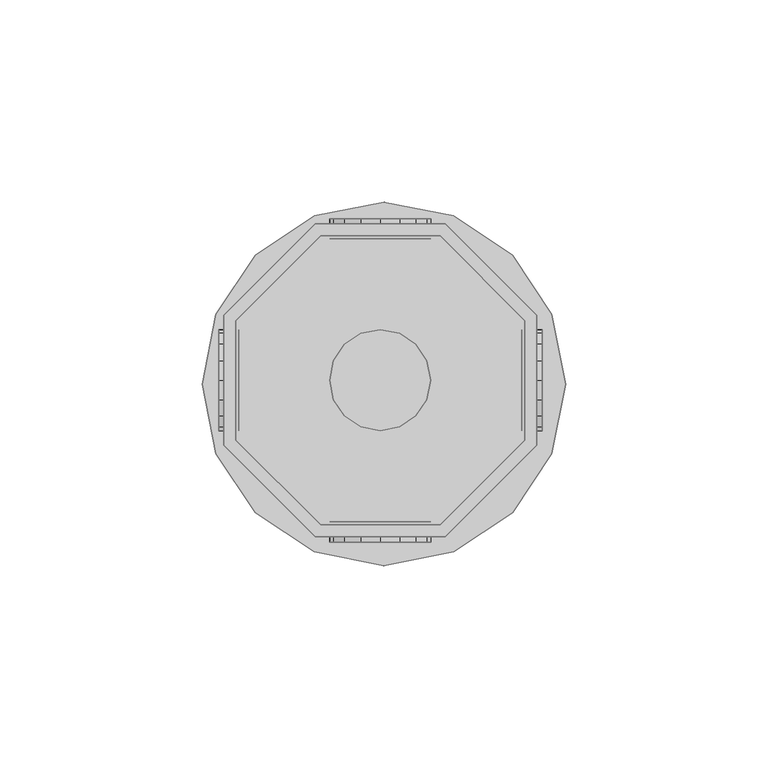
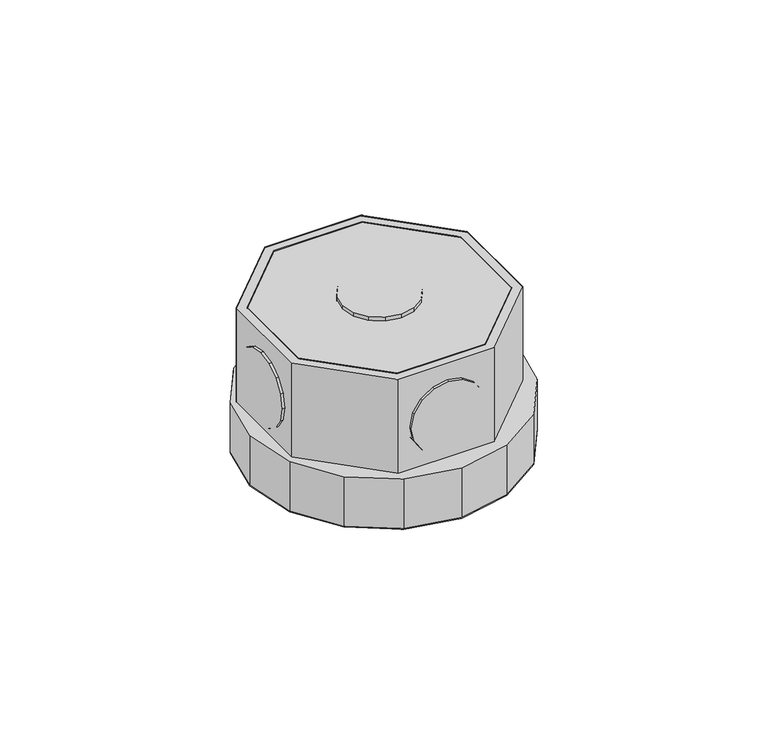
"""IFC4 building model written with IfcOpenShell, lengths in millimetres: light fixture geometry,  213252 :  213252."""

from ifc_helpers import new_model, si_unit, origin, place, context, project, spatial, triangles, source, transform, mapped, element, save


def light_fixture_a044ba7b(model_context):
    return source(origin(), model_context, "Body", "Tessellation", [
        triangles([(17509.9998138, 16550.5002411, 2924.5999741), (17480.4004578, 16550.5002411, 2975.400071), (17480.4004578, 16550.5002411, 2924.5999741), (17509.9998138, 16550.5002411, 2975.400071), (17511.1997406, 16476.0001373, 2924.5999741), (17479.1005371, 16476.0001373, 2975.400071), (17479.1005371, 16476.0001373, 2924.5999741), (17511.1997406, 16476.0001373, 2975.400071), (17459.4005768, 16529.5003601, 2975.400071), (17459.4005768, 16529.5003601, 2924.5999741), (17533.8995178, 16498.6999146, 2924.5999741), (17533.8995178, 16498.6999146, 2975.400071), (17459.4005768, 16499.8998413, 2975.400071), (17459.4005768, 16499.8998413, 2924.5999741), (17533.8995178, 16530.8002808, 2924.5999741), (17533.8995178, 16530.8002808, 2975.400071), (17480.4004578, 16478.9999542, 2975.400071), (17480.4004578, 16478.9999542, 2924.5999741), (17511.1997406, 16553.500058, 2924.5999741), (17511.1997406, 16553.500058, 2975.400071), (17509.9998138, 16478.9999542, 2924.5999741), (17509.9998138, 16478.9999542, 2975.400071), (17479.1005371, 16553.500058, 2975.400071), (17479.1005371, 16553.500058, 2924.5999741), (17530.8997009, 16499.8998413, 2924.5999741), (17530.8997009, 16499.8998413, 2975.400071), (17456.3995972, 16530.8002808, 2975.400071), (17456.3995972, 16530.8002808, 2924.5999741), (17456.3995972, 16498.6999146, 2975.400071), (17530.8997009, 16529.5003601, 2975.400071), (17530.8997009, 16529.5003601, 2924.5999741), (17456.3995972, 16498.6999146, 2924.5999741), (17459.4005768, 16499.8998413, 2972.3999634), (17480.4004578, 16478.9999542, 2972.3999634), (17509.9998138, 16478.9999542, 2972.3999634), (17530.8997009, 16499.8998413, 2972.3999634), (17530.8997009, 16529.5003601, 2972.3999634), (17509.9998138, 16550.5002411, 2972.3999634), (17480.4004578, 16550.5002411, 2972.3999634), (17459.4005768, 16529.5003601, 2972.3999634), (17456.3995972, 16530.8002808, 2942.4000504), (17479.1005371, 16553.500058, 2942.4000504), (17511.1997406, 16553.500058, 2942.4000504), (17533.8995178, 16530.8002808, 2942.4000504), (17533.8995178, 16498.6999146, 2942.4000504), (17511.1997406, 16476.0001373, 2942.4000504), (17479.1005371, 16476.0001373, 2942.4000504), (17456.3995972, 16498.6999146, 2942.4000504), (17478.8005554, 16472.3003632, 2942.4000504), (17454.4997131, 16496.6000427, 2942.4000504), (17464.2002838, 16481.9997711, 2942.4000504), (17451.0999207, 16513.8001556, 2942.4000504), (17454.4997131, 16531.1002625, 2942.4000504), (17464.2002838, 16545.7005341, 2942.4000504), (17478.8005554, 16555.399942, 2942.4000504), (17496.0994995, 16558.7997345, 2942.4000504), (17513.2996124, 16555.399942, 2942.4000504), (17537.6004547, 16531.1002625, 2942.4000504), (17527.899884, 16545.7005341, 2942.4000504), (17496.0994995, 16468.8005768, 2942.4000504), (17513.2996124, 16472.3003632, 2942.4000504), (17527.899884, 16481.9997711, 2942.4000504), (17537.6004547, 16496.6000427, 2942.4000504), (17541.1002411, 16513.8001556, 2942.4000504), (17454.4997131, 16496.6000427, 2924.5999741), (17478.8005554, 16472.3003632, 2924.5999741), (17464.2002838, 16481.9997711, 2924.5999741), (17451.0999207, 16513.8001556, 2924.5999741), (17454.4997131, 16531.1002625, 2924.5999741), (17464.2002838, 16545.7005341, 2924.5999741), (17478.8005554, 16555.399942, 2924.5999741), (17496.0994995, 16558.7997345, 2924.5999741), (17513.2996124, 16555.399942, 2924.5999741), (17537.6004547, 16531.1002625, 2924.5999741), (17527.899884, 16545.7005341, 2924.5999741), (17496.0994995, 16468.8005768, 2924.5999741), (17513.2996124, 16472.3003632, 2924.5999741), (17527.899884, 16481.9997711, 2924.5999741), (17537.6004547, 16496.6000427, 2924.5999741), (17541.1002411, 16513.8001556, 2924.5999741), (17483.6002625, 16554.6999847, 2952.6000092), (17490.3998474, 16554.6999847, 2945.9001274), (17486.3000977, 16554.6999847, 2948.5999626), (17482.7003174, 16554.6999847, 2957.4000069), (17495.1995544, 16554.6999847, 2944.8998978), (17483.6002625, 16554.6999847, 2962.2000046), (17500.0004242, 16554.6999847, 2945.9001274), (17486.3000977, 16554.6999847, 2966.2000511), (17504.0001801, 16554.6999847, 2948.5999626), (17490.3998474, 16554.6999847, 2968.8998863), (17506.7000153, 16554.6999847, 2952.6000092), (17495.1995544, 16554.6999847, 2969.900116), (17507.6999542, 16554.6999847, 2957.4000069), (17500.0004242, 16554.6999847, 2968.8998863), (17506.7000153, 16554.6999847, 2962.2000046), (17504.0001801, 16554.6999847, 2966.2000511), (17490.3998474, 16549.7002899, 2945.9001274), (17483.6002625, 16549.7002899, 2952.6000092), (17486.3000977, 16549.7002899, 2948.5999626), (17495.1995544, 16549.7002899, 2944.8998978), (17482.7003174, 16549.7002899, 2957.4000069), (17500.0004242, 16549.7002899, 2945.9001274), (17483.6002625, 16549.7002899, 2962.2000046), (17504.0001801, 16549.7002899, 2948.5999626), (17486.3000977, 16549.7002899, 2966.2000511), (17490.3998474, 16549.7002899, 2968.8998863), (17506.7000153, 16549.7002899, 2952.6000092), (17495.1995544, 16549.7002899, 2969.900116), (17507.6999542, 16549.7002899, 2957.4000069), (17500.0004242, 16549.7002899, 2968.8998863), (17506.7000153, 16549.7002899, 2962.2000046), (17504.0001801, 16549.7002899, 2966.2000511), (17483.6002625, 16479.6999115, 2952.6000092), (17490.3998474, 16479.6999115, 2945.9001274), (17486.3000977, 16479.6999115, 2948.5999626), (17482.7003174, 16479.6999115, 2957.4000069), (17495.1995544, 16479.6999115, 2944.8998978), (17483.6002625, 16479.6999115, 2962.2000046), (17500.0004242, 16479.6999115, 2945.9001274), (17486.3000977, 16479.6999115, 2966.2000511), (17504.0001801, 16479.6999115, 2948.5999626), (17490.3998474, 16479.6999115, 2968.8998863), (17506.7000153, 16479.6999115, 2952.6000092), (17495.1995544, 16479.6999115, 2969.900116), (17507.6999542, 16479.6999115, 2957.4000069), (17500.0004242, 16479.6999115, 2968.8998863), (17506.7000153, 16479.6999115, 2962.2000046), (17504.0001801, 16479.6999115, 2966.2000511), (17490.3998474, 16474.7002167, 2945.9001274), (17483.6002625, 16474.7002167, 2952.6000092), (17486.3000977, 16474.7002167, 2948.5999626), (17495.1995544, 16474.7002167, 2944.8998978), (17482.7003174, 16474.7002167, 2957.4000069), (17500.0004242, 16474.7002167, 2945.9001274), (17483.6002625, 16474.7002167, 2962.2000046), (17504.0001801, 16474.7002167, 2948.5999626), (17486.3000977, 16474.7002167, 2966.2000511), (17490.3998474, 16474.7002167, 2968.8998863), (17506.7000153, 16474.7002167, 2952.6000092), (17495.1995544, 16474.7002167, 2969.900116), (17507.6999542, 16474.7002167, 2957.4000069), (17500.0004242, 16474.7002167, 2968.8998863), (17506.7000153, 16474.7002167, 2962.2000046), (17504.0001801, 16474.7002167, 2966.2000511), (17460.200528, 16509.9003937, 2945.9001274), (17460.200528, 16503.1996399, 2952.6000092), (17460.200528, 16505.8994751, 2948.5999626), (17460.200528, 16514.7001007, 2944.8998978), (17460.200528, 16502.1997009, 2957.4000069), (17460.200528, 16519.4998077, 2945.9001274), (17460.200528, 16503.1996399, 2962.2000046), (17460.200528, 16523.5995575, 2948.5999626), (17460.200528, 16505.8994751, 2966.2000511), (17460.200528, 16509.9003937, 2968.8998863), (17460.200528, 16526.3005554, 2952.6000092), (17460.200528, 16514.7001007, 2969.900116), (17460.200528, 16527.2005005, 2957.4000069), (17460.200528, 16519.4998077, 2968.8998863), (17460.200528, 16526.3005554, 2962.2000046), (17460.200528, 16523.5995575, 2966.2000511), (17455.1996704, 16503.1996399, 2952.6000092), (17455.1996704, 16509.9003937, 2945.9001274), (17455.1996704, 16505.8994751, 2948.5999626), (17455.1996704, 16502.1997009, 2957.4000069), (17455.1996704, 16514.7001007, 2944.8998978), (17455.1996704, 16503.1996399, 2962.2000046), (17455.1996704, 16519.4998077, 2945.9001274), (17455.1996704, 16505.8994751, 2966.2000511), (17455.1996704, 16523.5995575, 2948.5999626), (17455.1996704, 16509.9003937, 2968.8998863), (17455.1996704, 16526.3005554, 2952.6000092), (17455.1996704, 16514.7001007, 2969.900116), (17455.1996704, 16527.2005005, 2957.4000069), (17455.1996704, 16519.4998077, 2968.8998863), (17455.1996704, 16526.3005554, 2962.2000046), (17455.1996704, 16523.5995575, 2966.2000511), (17535.1994385, 16509.9003937, 2945.9001274), (17535.1994385, 16503.1996399, 2952.6000092), (17535.1994385, 16505.8994751, 2948.5999626), (17535.1994385, 16514.7001007, 2944.8998978), (17535.1994385, 16502.1997009, 2957.4000069), (17535.1994385, 16519.4998077, 2945.9001274), (17535.1994385, 16503.1996399, 2962.2000046), (17535.1994385, 16523.5995575, 2948.5999626), (17535.1994385, 16505.8994751, 2966.2000511), (17535.1994385, 16509.9003937, 2968.8998863), (17535.1994385, 16526.3005554, 2952.6000092), (17535.1994385, 16514.7001007, 2969.900116), (17535.1994385, 16527.2005005, 2957.4000069), (17535.1994385, 16519.4998077, 2968.8998863), (17535.1994385, 16526.3005554, 2962.2000046), (17535.1994385, 16523.5995575, 2966.2000511), (17530.1997437, 16503.1996399, 2952.6000092), (17530.1997437, 16509.9003937, 2945.9001274), (17530.1997437, 16505.8994751, 2948.5999626), (17530.1997437, 16502.1997009, 2957.4000069), (17530.1997437, 16514.7001007, 2944.8998978), (17530.1997437, 16503.1996399, 2962.2000046), (17530.1997437, 16519.4998077, 2945.9001274), (17530.1997437, 16505.8994751, 2966.2000511), (17530.1997437, 16523.5995575, 2948.5999626), (17530.1997437, 16509.9003937, 2968.8998863), (17530.1997437, 16526.3005554, 2952.6000092), (17530.1997437, 16514.7001007, 2969.900116), (17530.1997437, 16527.2005005, 2957.4000069), (17530.1997437, 16519.4998077, 2968.8998863), (17530.1997437, 16526.3005554, 2962.2000046), (17530.1997437, 16523.5995575, 2966.2000511), (17490.3998474, 16503.1996399, 2976.9999733), (17483.6002625, 16509.9003937, 2976.9999733), (17486.3000977, 16505.8994751, 2976.9999733), (17482.7003174, 16514.7001007, 2976.9999733), (17495.1995544, 16502.1997009, 2976.9999733), (17483.6002625, 16519.4998077, 2976.9999733), (17500.0004242, 16503.1996399, 2976.9999733), (17486.3000977, 16523.5995575, 2976.9999733), (17504.0001801, 16505.8994751, 2976.9999733), (17490.3998474, 16526.3005554, 2976.9999733), (17506.7000153, 16509.9003937, 2976.9999733), (17495.1995544, 16527.2005005, 2976.9999733), (17507.6999542, 16514.7001007, 2976.9999733), (17500.0004242, 16526.3005554, 2976.9999733), (17506.7000153, 16519.4998077, 2976.9999733), (17504.0001801, 16523.5995575, 2976.9999733), (17483.6002625, 16509.9003937, 2971.9999878), (17490.3998474, 16503.1996399, 2971.9999878), (17486.3000977, 16505.8994751, 2971.9999878), (17482.7003174, 16514.7001007, 2971.9999878), (17495.1995544, 16502.1997009, 2971.9999878), (17483.6002625, 16519.4998077, 2971.9999878), (17500.0004242, 16503.1996399, 2971.9999878), (17486.3000977, 16523.5995575, 2971.9999878), (17504.0001801, 16505.8994751, 2971.9999878), (17490.3998474, 16526.3005554, 2971.9999878), (17506.7000153, 16509.9003937, 2971.9999878), (17495.1995544, 16527.2005005, 2971.9999878), (17507.6999542, 16514.7001007, 2971.9999878), (17500.0004242, 16526.3005554, 2971.9999878), (17506.7000153, 16519.4998077, 2971.9999878), (17504.0001801, 16523.5995575, 2971.9999878)], [[1, 2, 3], [2, 1, 4], [5, 6, 7], [6, 5, 8], [3, 9, 10], [9, 3, 2], [11, 8, 5], [8, 11, 12], [10, 13, 14], [13, 10, 9], [15, 12, 11], [12, 15, 16], [14, 17, 18], [17, 14, 13], [19, 16, 15], [16, 19, 20], [17, 21, 18], [21, 17, 22], [23, 19, 24], [19, 23, 20], [22, 25, 21], [25, 22, 26], [27, 24, 28], [24, 27, 23], [6, 13, 29], [29, 13, 27], [27, 13, 9], [27, 9, 23], [23, 9, 2], [23, 2, 4], [23, 4, 20], [20, 4, 30], [8, 17, 6], [6, 17, 13], [17, 8, 22], [12, 22, 8], [22, 12, 26], [30, 26, 12], [16, 30, 12], [20, 30, 16], [30, 1, 31], [1, 30, 4], [6, 32, 7], [32, 6, 29], [32, 14, 7], [28, 14, 32], [14, 28, 10], [24, 10, 28], [10, 24, 3], [1, 3, 24], [19, 1, 24], [31, 1, 19], [7, 18, 5], [14, 18, 7], [5, 18, 21], [5, 21, 11], [11, 21, 25], [11, 25, 31], [11, 31, 15], [15, 31, 19], [26, 31, 25], [31, 26, 30], [29, 28, 32], [28, 29, 27], [17, 33, 34], [33, 17, 13], [35, 17, 34], [17, 35, 22], [36, 22, 35], [22, 36, 26], [37, 26, 36], [26, 37, 30], [38, 30, 37], [30, 38, 4], [2, 38, 39], [38, 2, 4], [17, 9, 13], [9, 17, 22], [9, 22, 2], [2, 22, 26], [2, 26, 4], [4, 26, 30], [13, 40, 33], [40, 13, 9], [40, 34, 33], [35, 34, 40], [35, 40, 39], [35, 39, 36], [36, 39, 38], [36, 38, 37], [9, 39, 40], [39, 9, 2], [24, 41, 28], [41, 24, 42], [19, 42, 24], [42, 19, 43], [44, 19, 15], [19, 44, 43], [45, 15, 11], [15, 45, 44], [46, 11, 5], [11, 46, 45], [47, 5, 7], [5, 47, 46], [32, 47, 7], [47, 32, 48], [28, 48, 32], [48, 28, 41], [49, 50, 51], [48, 50, 49], [50, 48, 52], [41, 52, 48], [52, 41, 53], [53, 41, 54], [42, 54, 41], [54, 42, 55], [55, 42, 43], [55, 43, 56], [56, 43, 57], [57, 43, 44], [57, 44, 58], [57, 58, 59], [47, 49, 60], [49, 47, 48], [47, 60, 46], [61, 46, 60], [46, 61, 62], [46, 62, 45], [45, 62, 63], [44, 45, 63], [44, 63, 64], [44, 64, 58], [65, 66, 67], [66, 65, 32], [68, 32, 65], [32, 68, 28], [28, 68, 69], [70, 28, 69], [28, 70, 24], [71, 24, 70], [19, 24, 71], [19, 71, 72], [73, 19, 72], [19, 73, 15], [74, 15, 73], [74, 73, 75], [76, 66, 7], [32, 7, 66], [5, 76, 7], [76, 5, 77], [77, 5, 78], [11, 78, 5], [78, 11, 79], [79, 11, 15], [79, 15, 80], [80, 15, 74], [57, 75, 73], [75, 57, 59], [56, 73, 72], [73, 56, 57], [55, 72, 71], [72, 55, 56], [54, 71, 70], [71, 54, 55], [53, 70, 69], [70, 53, 54], [52, 69, 68], [69, 52, 53], [50, 68, 65], [68, 50, 52], [51, 65, 67], [65, 51, 50], [66, 51, 67], [51, 66, 49], [76, 49, 66], [49, 76, 60], [77, 60, 76], [60, 77, 61], [78, 61, 77], [61, 78, 62], [79, 62, 78], [62, 79, 63], [80, 63, 79], [63, 80, 64], [75, 58, 74], [58, 75, 59], [74, 64, 80], [64, 74, 58], [81, 82, 83], [82, 81, 84], [85, 82, 84], [85, 84, 86], [87, 85, 86], [87, 86, 88], [87, 88, 89], [89, 88, 90], [89, 90, 91], [91, 90, 92], [91, 92, 93], [93, 92, 94], [93, 94, 95], [95, 94, 96], [97, 98, 99], [98, 97, 100], [101, 98, 100], [101, 100, 102], [103, 101, 102], [103, 102, 104], [103, 104, 105], [105, 104, 106], [106, 104, 107], [106, 107, 108], [108, 107, 109], [108, 109, 110], [110, 109, 111], [110, 111, 112], [87, 104, 102], [104, 87, 89], [85, 102, 100], [102, 85, 87], [82, 100, 97], [100, 82, 85], [83, 97, 99], [97, 83, 82], [98, 83, 99], [83, 98, 81], [101, 81, 98], [81, 101, 84], [103, 84, 101], [84, 103, 86], [105, 86, 103], [86, 105, 88], [106, 88, 105], [88, 106, 90], [108, 90, 106], [90, 108, 92], [110, 92, 108], [92, 110, 94], [112, 94, 110], [94, 112, 96], [95, 112, 111], [112, 95, 96], [93, 111, 109], [111, 93, 95], [89, 107, 104], [107, 89, 91], [91, 109, 107], [109, 91, 93], [113, 114, 115], [114, 113, 116], [117, 114, 116], [117, 116, 118], [119, 117, 118], [119, 118, 120], [119, 120, 121], [121, 120, 122], [121, 122, 123], [123, 122, 124], [123, 124, 125], [125, 124, 126], [125, 126, 127], [127, 126, 128], [129, 130, 131], [130, 129, 132], [133, 130, 132], [133, 132, 134], [135, 133, 134], [135, 134, 136], [135, 136, 137], [137, 136, 138], [138, 136, 139], [138, 139, 140], [140, 139, 141], [140, 141, 142], [142, 141, 143], [142, 143, 144], [119, 136, 134], [136, 119, 121], [117, 134, 132], [134, 117, 119], [114, 132, 129], [132, 114, 117], [115, 129, 131], [129, 115, 114], [130, 115, 131], [115, 130, 113], [133, 113, 130], [113, 133, 116], [135, 116, 133], [116, 135, 118], [137, 118, 135], [118, 137, 120], [138, 120, 137], [120, 138, 122], [140, 122, 138], [122, 140, 124], [142, 124, 140], [124, 142, 126], [144, 126, 142], [126, 144, 128], [127, 144, 143], [144, 127, 128], [125, 143, 141], [143, 125, 127], [121, 139, 136], [139, 121, 123], [123, 141, 139], [141, 123, 125], [145, 146, 147], [146, 145, 148], [149, 146, 148], [149, 148, 150], [151, 149, 150], [151, 150, 152], [151, 152, 153], [153, 152, 154], [154, 152, 155], [154, 155, 156], [156, 155, 157], [156, 157, 158], [158, 157, 159], [158, 159, 160], [161, 162, 163], [162, 161, 164], [165, 162, 164], [165, 164, 166], [167, 165, 166], [167, 166, 168], [169, 167, 168], [169, 168, 170], [169, 170, 171], [171, 170, 172], [171, 172, 173], [173, 172, 174], [173, 174, 175], [175, 174, 176], [158, 176, 174], [176, 158, 160], [156, 174, 172], [174, 156, 158], [154, 172, 170], [172, 154, 156], [153, 170, 168], [170, 153, 154], [151, 168, 166], [168, 151, 153], [149, 166, 164], [166, 149, 151], [146, 164, 161], [164, 146, 149], [147, 161, 163], [161, 147, 146], [162, 147, 163], [147, 162, 145], [165, 145, 162], [145, 165, 148], [167, 148, 165], [148, 167, 150], [169, 150, 167], [150, 169, 152], [171, 152, 169], [152, 171, 155], [173, 155, 171], [155, 173, 157], [176, 159, 175], [159, 176, 160], [175, 157, 173], [157, 175, 159], [177, 178, 179], [178, 177, 180], [181, 178, 180], [181, 180, 182], [183, 181, 182], [183, 182, 184], [183, 184, 185], [185, 184, 186], [186, 184, 187], [186, 187, 188], [188, 187, 189], [188, 189, 190], [190, 189, 191], [190, 191, 192], [193, 194, 195], [194, 193, 196], [197, 194, 196], [197, 196, 198], [199, 197, 198], [199, 198, 200], [201, 199, 200], [201, 200, 202], [201, 202, 203], [203, 202, 204], [203, 204, 205], [205, 204, 206], [205, 206, 207], [207, 206, 208], [190, 208, 206], [208, 190, 192], [188, 206, 204], [206, 188, 190], [186, 204, 202], [204, 186, 188], [185, 202, 200], [202, 185, 186], [183, 200, 198], [200, 183, 185], [181, 198, 196], [198, 181, 183], [178, 196, 193], [196, 178, 181], [179, 193, 195], [193, 179, 178], [194, 179, 195], [179, 194, 177], [197, 177, 194], [177, 197, 180], [199, 180, 197], [180, 199, 182], [201, 182, 199], [182, 201, 184], [203, 184, 201], [184, 203, 187], [205, 187, 203], [187, 205, 189], [208, 191, 207], [191, 208, 192], [207, 189, 205], [189, 207, 191], [209, 210, 211], [212, 210, 209], [212, 209, 213], [214, 212, 213], [214, 213, 215], [216, 214, 215], [216, 215, 217], [216, 217, 218], [218, 217, 219], [218, 219, 220], [220, 219, 221], [220, 221, 222], [222, 221, 223], [222, 223, 224], [225, 226, 227], [226, 225, 228], [229, 226, 228], [229, 228, 230], [231, 229, 230], [231, 230, 232], [231, 232, 233], [233, 232, 234], [233, 234, 235], [235, 234, 236], [235, 236, 237], [237, 236, 238], [237, 238, 239], [239, 238, 240], [222, 240, 238], [240, 222, 224], [220, 238, 236], [238, 220, 222], [218, 236, 234], [236, 218, 220], [216, 234, 232], [234, 216, 218], [214, 232, 230], [232, 214, 216], [212, 230, 228], [230, 212, 214], [210, 228, 225], [228, 210, 212], [211, 225, 227], [225, 211, 210], [226, 211, 227], [211, 226, 209], [229, 209, 226], [209, 229, 213], [231, 213, 229], [213, 231, 215], [233, 215, 231], [215, 233, 217], [235, 217, 233], [217, 235, 219], [237, 219, 235], [219, 237, 221], [240, 223, 239], [223, 240, 224], [239, 221, 237], [221, 239, 223]], closed=False),
    ])


if __name__ == "__main__":
    model = new_model("IFC4")
    model_context = context("Model", 3, world=origin())
    ifc_project = project(units=[si_unit("LENGTHUNIT", "METRE", prefix="MILLI")], contexts=[model_context])
    site = spatial("IfcSite", under=ifc_project)
    building = spatial("IfcBuilding", under=site)
    placement = place(None, origin())
    light_fixture_shape = light_fixture_a044ba7b(model_context)
    element("IfcLightFixture", 1, ObjectType=" 213252 :  213252", at=placement, inside=building, context=model_context, shape_type="MappedRepresentation", body=[
        mapped(light_fixture_shape, transform((0.0, 0.0, 0.0), x_axis=(1.0, 0.0, 0.0), y_axis=(0.0, 1.0, 0.0), z_axis=(0.0, 0.0, 1.0))),
    ])
    save(model, "model.ifc")
